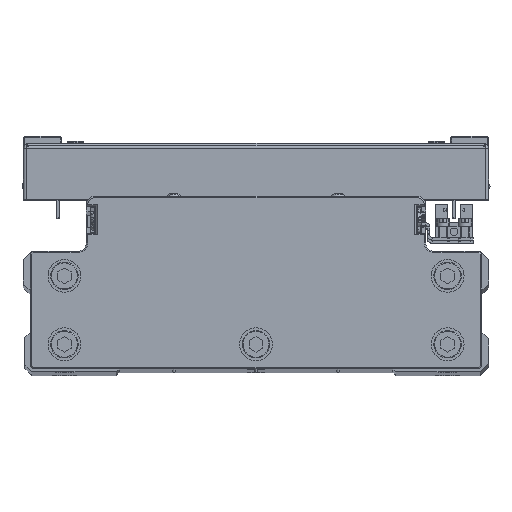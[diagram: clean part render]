
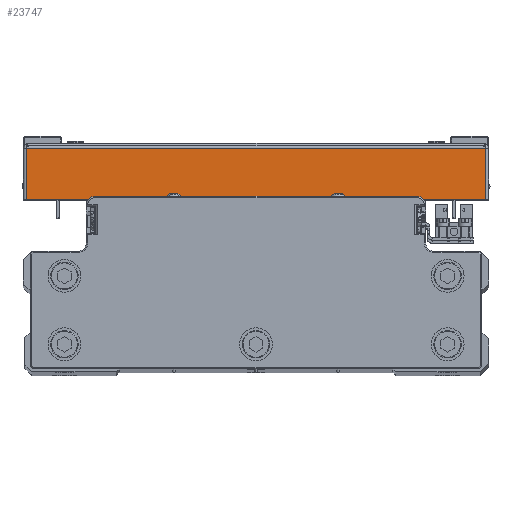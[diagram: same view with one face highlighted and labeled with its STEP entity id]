
A CAD part, top view. The second image highlights one B-rep face of the part: STEP entity #23747.
In plain terms, the highlighted planar face has unit normal (0, 0, 1) as drawn and (1, 0, 0) by its records, which use the part's own axes.
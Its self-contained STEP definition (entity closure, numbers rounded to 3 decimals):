
#2512 = CARTESIAN_POINT ( 'NONE',  ( 110., 19.5, 0. ) ) ;
#4043 = VERTEX_POINT ( 'NONE', #18910 ) ;
#5417 = VERTEX_POINT ( 'NONE', #20468 ) ;
#5636 = LINE ( 'NONE', #19487, #30792 ) ;
#5759 = VECTOR ( 'NONE', #36005, 1000. ) ;
#6493 = DIRECTION ( 'NONE',  ( -1., 0., 0. ) ) ;
#6573 = CARTESIAN_POINT ( 'NONE',  ( 110., 1., 85. ) ) ;
#7795 = EDGE_CURVE ( 'NONE', #14339, #5417, #8312, .T. ) ;
#8312 = LINE ( 'NONE', #22144, #5759 ) ;
#9902 = FACE_OUTER_BOUND ( 'NONE', #40117, .T. ) ;
#13172 = EDGE_CURVE ( 'NONE', #17320, #14339, #37674, .T. ) ;
#14339 = VERTEX_POINT ( 'NONE', #30424 ) ;
#16334 = DIRECTION ( 'NONE',  ( 0., 0., 1. ) ) ;
#17320 = VERTEX_POINT ( 'NONE', #36208 ) ;
#18910 = CARTESIAN_POINT ( 'NONE',  ( 110., 19.5, -83.929 ) ) ;
#19221 = VECTOR ( 'NONE', #20423, 1000. ) ;
#19487 = CARTESIAN_POINT ( 'NONE',  ( 110., 0., -83.929 ) ) ;
#20344 = DIRECTION ( 'NONE',  ( 0., -1., 0. ) ) ;
#20423 = DIRECTION ( 'NONE',  ( 0., 0., 1. ) ) ;
#20468 = CARTESIAN_POINT ( 'NONE',  ( 110., 19.5, 83.929 ) ) ;
#21359 = VECTOR ( 'NONE', #16334, 1000. ) ;
#21627 = ORIENTED_EDGE ( 'NONE', *, *, #22064, .T. ) ;
#22064 = EDGE_CURVE ( 'NONE', #17320, #4043, #5636, .T. ) ;
#22144 = CARTESIAN_POINT ( 'NONE',  ( 110., 0., 83.929 ) ) ;
#22426 = AXIS2_PLACEMENT_3D ( 'NONE', #37589, #6493, #20344 ) ;
#23721 = PLANE ( 'NONE',  #22426 ) ;
#23747 = ADVANCED_FACE ( 'NONE', ( #9902 ), #23721, .F. ) ;
#29278 = ORIENTED_EDGE ( 'NONE', *, *, #30933, .T. ) ;
#30082 = ORIENTED_EDGE ( 'NONE', *, *, #7795, .F. ) ;
#30424 = CARTESIAN_POINT ( 'NONE',  ( 110., 1., 83.929 ) ) ;
#30792 = VECTOR ( 'NONE', #33335, 1000. ) ;
#30933 = EDGE_CURVE ( 'NONE', #4043, #5417, #33593, .T. ) ;
#33335 = DIRECTION ( 'NONE',  ( 0., 1., 0. ) ) ;
#33593 = LINE ( 'NONE', #2512, #21359 ) ;
#36005 = DIRECTION ( 'NONE',  ( 0., 1., 0. ) ) ;
#36208 = CARTESIAN_POINT ( 'NONE',  ( 110., 1., -83.929 ) ) ;
#37589 = CARTESIAN_POINT ( 'NONE',  ( 110., 0., 0. ) ) ;
#37674 = LINE ( 'NONE', #6573, #19221 ) ;
#40117 = EDGE_LOOP ( 'NONE', ( #40709, #21627, #29278, #30082 ) ) ;
#40709 = ORIENTED_EDGE ( 'NONE', *, *, #13172, .F. ) ;
